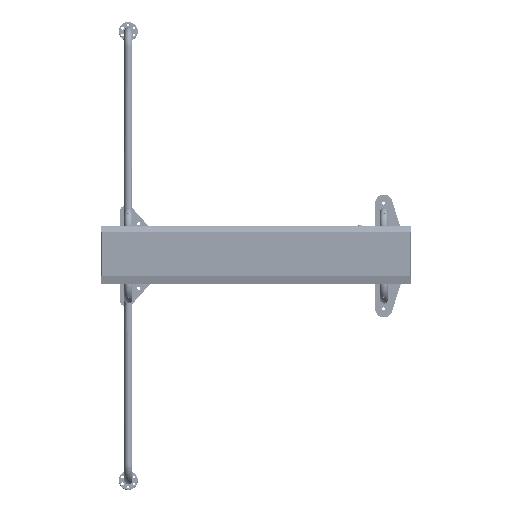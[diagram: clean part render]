
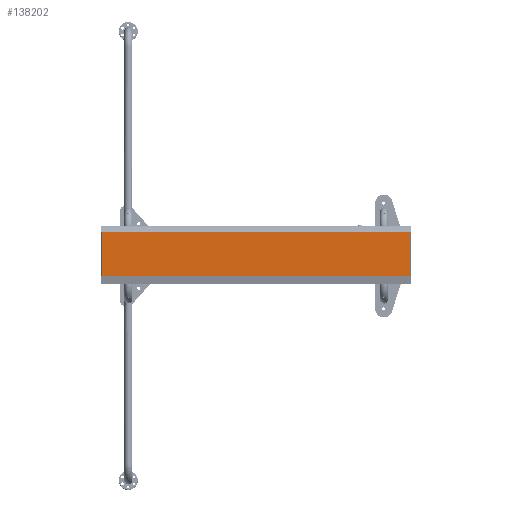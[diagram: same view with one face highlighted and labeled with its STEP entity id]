
A CAD part, top view. The second image highlights one B-rep face of the part: STEP entity #138202.
In plain terms, the highlighted planar face has unit normal (0, 0, 1).
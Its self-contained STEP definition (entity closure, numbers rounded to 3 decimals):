
#53198=ORIENTED_EDGE('',*,*,#72522,.F.);
#53199=ORIENTED_EDGE('',*,*,#72514,.T.);
#53200=ORIENTED_EDGE('',*,*,#72520,.F.);
#53201=ORIENTED_EDGE('',*,*,#72523,.T.);
#53202=ORIENTED_EDGE('',*,*,#72524,.F.);
#53203=ORIENTED_EDGE('',*,*,#72443,.T.);
#53204=ORIENTED_EDGE('',*,*,#72525,.F.);
#53205=ORIENTED_EDGE('',*,*,#72526,.T.);
#72443=EDGE_CURVE('',#84541,#84540,#93281,.T.);
#72514=EDGE_CURVE('',#84589,#84591,#93326,.T.);
#72520=EDGE_CURVE('',#84593,#84591,#93332,.T.);
#72522=EDGE_CURVE('',#84589,#84594,#93334,.T.);
#72523=EDGE_CURVE('',#84593,#84595,#93335,.T.);
#72524=EDGE_CURVE('',#84541,#84595,#93336,.T.);
#72525=EDGE_CURVE('',#84596,#84540,#93337,.T.);
#72526=EDGE_CURVE('',#84596,#84594,#93338,.T.);
#84540=VERTEX_POINT('',#261611);
#84541=VERTEX_POINT('',#261613);
#84589=VERTEX_POINT('',#261755);
#84591=VERTEX_POINT('',#261760);
#84593=VERTEX_POINT('',#261773);
#84594=VERTEX_POINT('',#261778);
#84595=VERTEX_POINT('',#261780);
#84596=VERTEX_POINT('',#261783);
#93281=LINE('',#261612,#101971);
#93326=LINE('',#261761,#102016);
#93332=LINE('',#261774,#102022);
#93334=LINE('',#261777,#102024);
#93335=LINE('',#261779,#102025);
#93336=LINE('',#261781,#102026);
#93337=LINE('',#261782,#102027);
#93338=LINE('',#261784,#102028);
#101971=VECTOR('',#196324,1000.);
#102016=VECTOR('',#196475,1000.);
#102022=VECTOR('',#196491,1000.);
#102024=VECTOR('',#196495,1000.);
#102025=VECTOR('',#196496,1000.);
#102026=VECTOR('',#196497,1000.);
#102027=VECTOR('',#196498,1000.);
#102028=VECTOR('',#196499,1000.);
#112619=EDGE_LOOP('',(#53198,#53199,#53200,#53201,#53202,#53203,#53204,
#53205));
#123300=FACE_BOUND('',#112619,.T.);
#126732=PLANE('',#155088);
#138202=ADVANCED_FACE('',(#123300),#126732,.F.);
#155088=AXIS2_PLACEMENT_3D('',#261776,#196493,#196494);
#196324=DIRECTION('',(1.,0.,0.));
#196475=DIRECTION('',(-1.,0.,0.));
#196491=DIRECTION('',(0.,1.,0.));
#196493=DIRECTION('',(0.,0.,-1.));
#196494=DIRECTION('',(0.,-1.,0.));
#196495=DIRECTION('',(0.,-1.,0.));
#196496=DIRECTION('',(0.,-1.,0.));
#196497=DIRECTION('',(0.,1.,0.));
#196498=DIRECTION('',(0.,-1.,0.));
#196499=DIRECTION('',(0.,1.,0.));
#261611=CARTESIAN_POINT('',(808.,-107.13,209.988));
#261612=CARTESIAN_POINT('',(-810.,-107.13,209.988));
#261613=CARTESIAN_POINT('',(-808.,-107.13,209.988));
#261755=CARTESIAN_POINT('',(808.,121.491,209.988));
#261760=CARTESIAN_POINT('',(-808.,121.491,209.988));
#261761=CARTESIAN_POINT('',(810.,121.491,209.988));
#261773=CARTESIAN_POINT('',(-808.,121.489,209.988));
#261774=CARTESIAN_POINT('',(-808.,121.489,209.988));
#261776=CARTESIAN_POINT('',(-810.,122.274,209.988));
#261777=CARTESIAN_POINT('',(808.,-107.128,209.988));
#261778=CARTESIAN_POINT('',(808.,121.489,209.988));
#261779=CARTESIAN_POINT('',(-808.,121.489,209.988));
#261780=CARTESIAN_POINT('',(-808.,-107.128,209.988));
#261781=CARTESIAN_POINT('',(-808.,121.489,209.988));
#261782=CARTESIAN_POINT('',(808.,-107.128,209.988));
#261783=CARTESIAN_POINT('',(808.,-107.128,209.988));
#261784=CARTESIAN_POINT('',(808.,-107.128,209.988));
